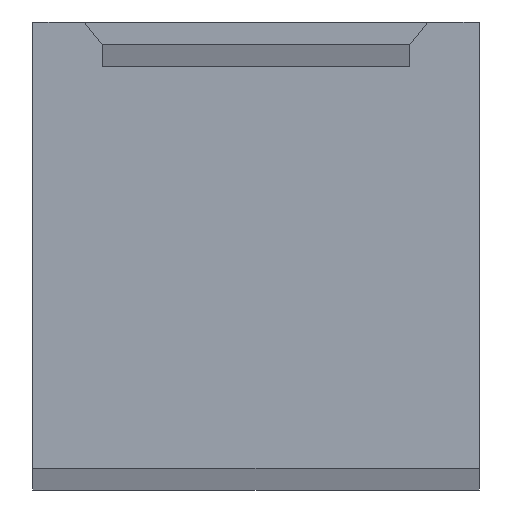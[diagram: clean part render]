
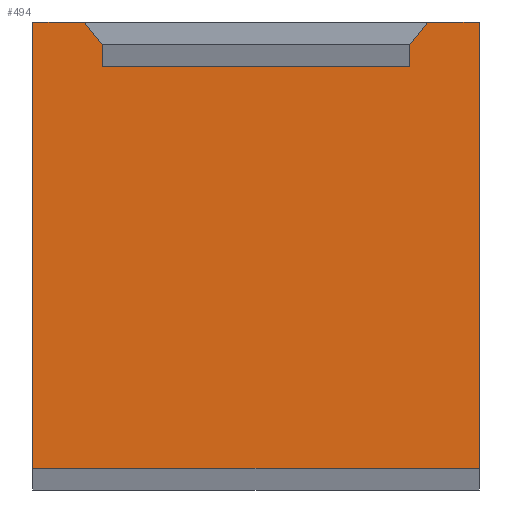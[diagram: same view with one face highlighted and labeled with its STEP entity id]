
A CAD part, top view. The second image highlights one B-rep face of the part: STEP entity #494.
In plain terms, the highlighted planar face has unit normal (0, 0, 1).
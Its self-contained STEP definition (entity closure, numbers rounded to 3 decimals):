
#2 = ORIENTED_EDGE ( 'NONE', *, *, #175, .T. ) ;
#7 = CARTESIAN_POINT ( 'NONE',  ( -10., -10., 280. ) ) ;
#8 = CARTESIAN_POINT ( 'NONE',  ( 7.7, 10., 280. ) ) ;
#9 = EDGE_CURVE ( 'NONE', #434, #359, #223, .T. ) ;
#10 = VECTOR ( 'NONE', #311, 1000. ) ;
#20 = VECTOR ( 'NONE', #249, 1000. ) ;
#33 = EDGE_CURVE ( 'NONE', #359, #51, #220, .T. ) ;
#41 = LINE ( 'NONE', #608, #20 ) ;
#51 = VERTEX_POINT ( 'NONE', #7 ) ;
#52 = CARTESIAN_POINT ( 'NONE',  ( -7.7, 10., 280. ) ) ;
#54 = DIRECTION ( 'NONE',  ( -0.625, 0.781, 0. ) ) ;
#57 = DIRECTION ( 'NONE',  ( -1., 0., 0. ) ) ;
#59 = LINE ( 'NONE', #511, #314 ) ;
#66 = VERTEX_POINT ( 'NONE', #157 ) ;
#68 = VECTOR ( 'NONE', #57, 1000. ) ;
#74 = CARTESIAN_POINT ( 'NONE',  ( -10., 10., 280. ) ) ;
#105 = CARTESIAN_POINT ( 'NONE',  ( -10., 10., 280. ) ) ;
#144 = EDGE_CURVE ( 'NONE', #473, #199, #179, .T. ) ;
#146 = VERTEX_POINT ( 'NONE', #613 ) ;
#148 = VERTEX_POINT ( 'NONE', #569 ) ;
#157 = CARTESIAN_POINT ( 'NONE',  ( 7.7, 10., 280. ) ) ;
#163 = VECTOR ( 'NONE', #54, 1000. ) ;
#167 = DIRECTION ( 'NONE',  ( 0., 0., 1. ) ) ;
#175 = EDGE_CURVE ( 'NONE', #148, #473, #41, .T. ) ;
#179 = LINE ( 'NONE', #52, #163 ) ;
#190 = ORIENTED_EDGE ( 'NONE', *, *, #33, .F. ) ;
#199 = VERTEX_POINT ( 'NONE', #306 ) ;
#212 = LINE ( 'NONE', #435, #627 ) ;
#214 = CARTESIAN_POINT ( 'NONE',  ( 6.9, 8., 280. ) ) ;
#220 = LINE ( 'NONE', #426, #68 ) ;
#223 = LINE ( 'NONE', #299, #297 ) ;
#231 = LINE ( 'NONE', #74, #340 ) ;
#234 = ORIENTED_EDGE ( 'NONE', *, *, #9, .F. ) ;
#249 = DIRECTION ( 'NONE',  ( 0., 1., 0. ) ) ;
#270 = EDGE_CURVE ( 'NONE', #51, #603, #59, .T. ) ;
#288 = ORIENTED_EDGE ( 'NONE', *, *, #144, .T. ) ;
#289 = DIRECTION ( 'NONE',  ( 0., -1., 0. ) ) ;
#297 = VECTOR ( 'NONE', #289, 1000. ) ;
#299 = CARTESIAN_POINT ( 'NONE',  ( 10., 10., 280. ) ) ;
#306 = CARTESIAN_POINT ( 'NONE',  ( -7.7, 10., 280. ) ) ;
#311 = DIRECTION ( 'NONE',  ( 1., 0., 0. ) ) ;
#314 = VECTOR ( 'NONE', #605, 1000. ) ;
#315 = VERTEX_POINT ( 'NONE', #214 ) ;
#319 = CARTESIAN_POINT ( 'NONE',  ( -6.9, 9., 280. ) ) ;
#323 = ORIENTED_EDGE ( 'NONE', *, *, #270, .F. ) ;
#325 = ORIENTED_EDGE ( 'NONE', *, *, #529, .T. ) ;
#340 = VECTOR ( 'NONE', #384, 1000. ) ;
#344 = ORIENTED_EDGE ( 'NONE', *, *, #417, .F. ) ;
#359 = VERTEX_POINT ( 'NONE', #639 ) ;
#376 = CARTESIAN_POINT ( 'NONE',  ( 10., 10., 280. ) ) ;
#382 = VECTOR ( 'NONE', #485, 1000. ) ;
#383 = ORIENTED_EDGE ( 'NONE', *, *, #636, .F. ) ;
#384 = DIRECTION ( 'NONE',  ( 1., 0., 0. ) ) ;
#417 = EDGE_CURVE ( 'NONE', #603, #199, #231, .T. ) ;
#426 = CARTESIAN_POINT ( 'NONE',  ( -10., -10., 280. ) ) ;
#434 = VERTEX_POINT ( 'NONE', #376 ) ;
#435 = CARTESIAN_POINT ( 'NONE',  ( 6.9, 9., 280. ) ) ;
#450 = EDGE_LOOP ( 'NONE', ( #482, #325, #649, #2, #288, #344, #323, #190, #234, #383 ) ) ;
#473 = VERTEX_POINT ( 'NONE', #319 ) ;
#476 = DIRECTION ( 'NONE',  ( -0.625, -0.781, 0. ) ) ;
#482 = ORIENTED_EDGE ( 'NONE', *, *, #621, .T. ) ;
#485 = DIRECTION ( 'NONE',  ( -1., 0., 0. ) ) ;
#494 = ADVANCED_FACE ( 'NONE', ( #535 ), #641, .T. ) ;
#509 = EDGE_CURVE ( 'NONE', #315, #148, #520, .T. ) ;
#511 = CARTESIAN_POINT ( 'NONE',  ( -10., 10., 280. ) ) ;
#520 = LINE ( 'NONE', #628, #382 ) ;
#527 = LINE ( 'NONE', #617, #10 ) ;
#529 = EDGE_CURVE ( 'NONE', #146, #315, #212, .T. ) ;
#535 = FACE_OUTER_BOUND ( 'NONE', #450, .T. ) ;
#543 = VECTOR ( 'NONE', #476, 1000. ) ;
#569 = CARTESIAN_POINT ( 'NONE',  ( -6.9, 8., 280. ) ) ;
#589 = CARTESIAN_POINT ( 'NONE',  ( 0., 0., 280. ) ) ;
#590 = DIRECTION ( 'NONE',  ( 1., 0., 0. ) ) ;
#593 = AXIS2_PLACEMENT_3D ( 'NONE', #589, #167, #590 ) ;
#601 = DIRECTION ( 'NONE',  ( 0., -1., 0. ) ) ;
#603 = VERTEX_POINT ( 'NONE', #105 ) ;
#605 = DIRECTION ( 'NONE',  ( 0., 1., 0. ) ) ;
#608 = CARTESIAN_POINT ( 'NONE',  ( -6.9, 9., 280. ) ) ;
#613 = CARTESIAN_POINT ( 'NONE',  ( 6.9, 9., 280. ) ) ;
#616 = LINE ( 'NONE', #8, #543 ) ;
#617 = CARTESIAN_POINT ( 'NONE',  ( -10., 10., 280. ) ) ;
#621 = EDGE_CURVE ( 'NONE', #66, #146, #616, .T. ) ;
#627 = VECTOR ( 'NONE', #601, 1000. ) ;
#628 = CARTESIAN_POINT ( 'NONE',  ( -6.9, 8., 280. ) ) ;
#636 = EDGE_CURVE ( 'NONE', #66, #434, #527, .T. ) ;
#639 = CARTESIAN_POINT ( 'NONE',  ( 10., -10., 280. ) ) ;
#641 = PLANE ( 'NONE',  #593 ) ;
#649 = ORIENTED_EDGE ( 'NONE', *, *, #509, .T. ) ;
